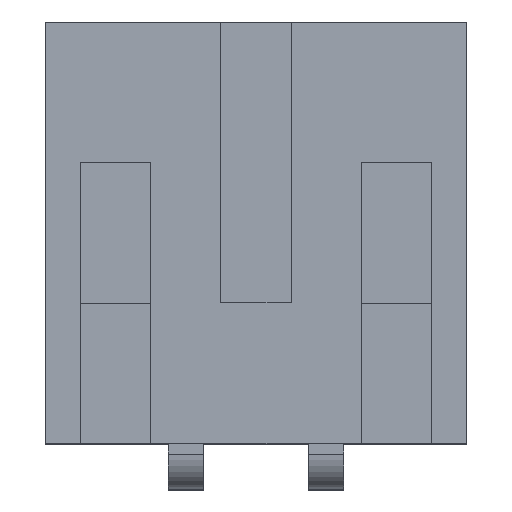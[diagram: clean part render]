
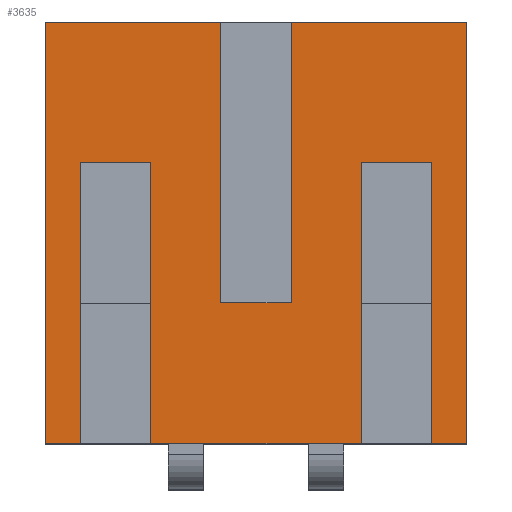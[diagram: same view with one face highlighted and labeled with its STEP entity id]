
A CAD part, top view. The second image highlights one B-rep face of the part: STEP entity #3635.
In plain terms, the highlighted planar face has unit normal (0, 0, 1).
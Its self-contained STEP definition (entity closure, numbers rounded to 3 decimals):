
#244 = LINE ( 'NONE', #5605, #6912 ) ;
#657 = DIRECTION ( 'NONE',  ( 1., 0., 0. ) ) ;
#843 = DIRECTION ( 'NONE',  ( 1., 0., 0. ) ) ;
#1010 = VERTEX_POINT ( 'NONE', #5062 ) ;
#1456 = CARTESIAN_POINT ( 'NONE',  ( 1.5, 0., 2.4 ) ) ;
#1509 = LINE ( 'NONE', #5811, #9569 ) ;
#1513 = CARTESIAN_POINT ( 'NONE',  ( 0.5, 0.882, 2.4 ) ) ;
#1758 = LINE ( 'NONE', #8501, #4857 ) ;
#1765 = CARTESIAN_POINT ( 'NONE',  ( -1.5, 4., 2.4 ) ) ;
#2033 = LINE ( 'NONE', #3082, #10865 ) ;
#2145 = VECTOR ( 'NONE', #13459, 1000. ) ;
#2176 = ORIENTED_EDGE ( 'NONE', *, *, #9074, .F. ) ;
#2286 = DIRECTION ( 'NONE',  ( 0., -1., 0. ) ) ;
#2777 = CARTESIAN_POINT ( 'NONE',  ( -3., 0., 2.4 ) ) ;
#2789 = EDGE_CURVE ( 'NONE', #7333, #7989, #8043, .T. ) ;
#2856 = CARTESIAN_POINT ( 'NONE',  ( -0.5, 2., 2.4 ) ) ;
#2992 = DIRECTION ( 'NONE',  ( 1., 0., 0. ) ) ;
#3075 = DIRECTION ( 'NONE',  ( 1., 0., 0. ) ) ;
#3082 = CARTESIAN_POINT ( 'NONE',  ( -0.5, 0.882, 2.4 ) ) ;
#3161 = ORIENTED_EDGE ( 'NONE', *, *, #4657, .T. ) ;
#3334 = CARTESIAN_POINT ( 'NONE',  ( 1.5, 4., 2.4 ) ) ;
#3489 = EDGE_CURVE ( 'NONE', #11536, #4437, #10509, .T. ) ;
#3528 = LINE ( 'NONE', #6058, #8404 ) ;
#3634 = VERTEX_POINT ( 'NONE', #7852 ) ;
#3635 = ADVANCED_FACE ( 'NONE', ( #3913 ), #13098, .F. ) ;
#3838 = ORIENTED_EDGE ( 'NONE', *, *, #12209, .F. ) ;
#3913 = FACE_OUTER_BOUND ( 'NONE', #15692, .T. ) ;
#3960 = VECTOR ( 'NONE', #6652, 1000. ) ;
#4152 = LINE ( 'NONE', #1513, #12795 ) ;
#4162 = EDGE_CURVE ( 'NONE', #1010, #14675, #14687, .T. ) ;
#4247 = VECTOR ( 'NONE', #15907, 1000. ) ;
#4250 = EDGE_CURVE ( 'NONE', #14648, #11364, #10944, .T. ) ;
#4262 = LINE ( 'NONE', #2856, #2145 ) ;
#4317 = CARTESIAN_POINT ( 'NONE',  ( 3., 6., 2.4 ) ) ;
#4437 = VERTEX_POINT ( 'NONE', #13275 ) ;
#4540 = CARTESIAN_POINT ( 'NONE',  ( -1.5, 0., 2.4 ) ) ;
#4657 = EDGE_CURVE ( 'NONE', #10153, #1010, #6432, .T. ) ;
#4684 = VECTOR ( 'NONE', #9133, 1000. ) ;
#4687 = CARTESIAN_POINT ( 'NONE',  ( -3., 0., 2.4 ) ) ;
#4731 = CARTESIAN_POINT ( 'NONE',  ( -0.5, 6., 2.4 ) ) ;
#4830 = ORIENTED_EDGE ( 'NONE', *, *, #4162, .T. ) ;
#4857 = VECTOR ( 'NONE', #3075, 1000. ) ;
#4977 = CARTESIAN_POINT ( 'NONE',  ( -2.5, 0., 2.4 ) ) ;
#5062 = CARTESIAN_POINT ( 'NONE',  ( 2.5, 0., 2.4 ) ) ;
#5110 = VERTEX_POINT ( 'NONE', #4540 ) ;
#5244 = EDGE_CURVE ( 'NONE', #7989, #10153, #16517, .T. ) ;
#5605 = CARTESIAN_POINT ( 'NONE',  ( 3., 6., 2.4 ) ) ;
#5660 = CARTESIAN_POINT ( 'NONE',  ( 2.5, 4., 2.4 ) ) ;
#5811 = CARTESIAN_POINT ( 'NONE',  ( -3., 6., 2.4 ) ) ;
#5818 = VECTOR ( 'NONE', #843, 1000. ) ;
#6058 = CARTESIAN_POINT ( 'NONE',  ( -1.5, 0., 2.4 ) ) ;
#6432 = LINE ( 'NONE', #11677, #16399 ) ;
#6652 = DIRECTION ( 'NONE',  ( 0., 1., 0. ) ) ;
#6863 = ORIENTED_EDGE ( 'NONE', *, *, #14977, .F. ) ;
#6912 = VECTOR ( 'NONE', #9662, 1000. ) ;
#7333 = VERTEX_POINT ( 'NONE', #11651 ) ;
#7611 = ORIENTED_EDGE ( 'NONE', *, *, #3489, .F. ) ;
#7852 = CARTESIAN_POINT ( 'NONE',  ( 0.5, 2., 2.4 ) ) ;
#7989 = VERTEX_POINT ( 'NONE', #3334 ) ;
#8006 = EDGE_CURVE ( 'NONE', #5110, #11536, #3528, .T. ) ;
#8043 = LINE ( 'NONE', #1456, #3960 ) ;
#8404 = VECTOR ( 'NONE', #15321, 1000. ) ;
#8416 = CARTESIAN_POINT ( 'NONE',  ( 2.5, 4., 2.4 ) ) ;
#8501 = CARTESIAN_POINT ( 'NONE',  ( -3., 6., 2.4 ) ) ;
#8547 = CARTESIAN_POINT ( 'NONE',  ( -0.5, 2., 2.4 ) ) ;
#8718 = VERTEX_POINT ( 'NONE', #8547 ) ;
#9074 = EDGE_CURVE ( 'NONE', #3634, #13758, #4152, .T. ) ;
#9133 = DIRECTION ( 'NONE',  ( 0., -1., 0. ) ) ;
#9210 = EDGE_CURVE ( 'NONE', #8718, #10137, #2033, .T. ) ;
#9445 = LINE ( 'NONE', #10491, #4684 ) ;
#9569 = VECTOR ( 'NONE', #2992, 1000. ) ;
#9662 = DIRECTION ( 'NONE',  ( 0., -1., 0. ) ) ;
#9707 = DIRECTION ( 'NONE',  ( 0., 0., -1. ) ) ;
#9932 = CARTESIAN_POINT ( 'NONE',  ( -3., 6., 2.4 ) ) ;
#10125 = ORIENTED_EDGE ( 'NONE', *, *, #16444, .F. ) ;
#10137 = VERTEX_POINT ( 'NONE', #4731 ) ;
#10153 = VERTEX_POINT ( 'NONE', #8416 ) ;
#10450 = ORIENTED_EDGE ( 'NONE', *, *, #5244, .T. ) ;
#10491 = CARTESIAN_POINT ( 'NONE',  ( -3., 6., 2.4 ) ) ;
#10509 = LINE ( 'NONE', #14747, #17022 ) ;
#10513 = CARTESIAN_POINT ( 'NONE',  ( 0.5, 6., 2.4 ) ) ;
#10721 = ORIENTED_EDGE ( 'NONE', *, *, #4250, .T. ) ;
#10773 = ORIENTED_EDGE ( 'NONE', *, *, #2789, .T. ) ;
#10865 = VECTOR ( 'NONE', #14979, 1000. ) ;
#10901 = VECTOR ( 'NONE', #657, 1000. ) ;
#10944 = LINE ( 'NONE', #4687, #10901 ) ;
#11364 = VERTEX_POINT ( 'NONE', #4977 ) ;
#11382 = VECTOR ( 'NONE', #13361, 1000. ) ;
#11396 = EDGE_CURVE ( 'NONE', #5110, #7333, #12857, .T. ) ;
#11536 = VERTEX_POINT ( 'NONE', #1765 ) ;
#11651 = CARTESIAN_POINT ( 'NONE',  ( 1.5, 0., 2.4 ) ) ;
#11677 = CARTESIAN_POINT ( 'NONE',  ( 2.5, 0., 2.4 ) ) ;
#11905 = ORIENTED_EDGE ( 'NONE', *, *, #11396, .T. ) ;
#11991 = VERTEX_POINT ( 'NONE', #9932 ) ;
#12151 = CARTESIAN_POINT ( 'NONE',  ( -3., 0., 2.4 ) ) ;
#12205 = CARTESIAN_POINT ( 'NONE',  ( -3., 6., 2.4 ) ) ;
#12209 = EDGE_CURVE ( 'NONE', #16672, #14675, #244, .T. ) ;
#12453 = EDGE_CURVE ( 'NONE', #3634, #8718, #4262, .T. ) ;
#12535 = ORIENTED_EDGE ( 'NONE', *, *, #12453, .T. ) ;
#12795 = VECTOR ( 'NONE', #14738, 1000. ) ;
#12857 = LINE ( 'NONE', #16667, #5818 ) ;
#13098 = PLANE ( 'NONE',  #14790 ) ;
#13225 = LINE ( 'NONE', #17216, #15397 ) ;
#13275 = CARTESIAN_POINT ( 'NONE',  ( -2.5, 4., 2.4 ) ) ;
#13358 = DIRECTION ( 'NONE',  ( -1., 0., 0. ) ) ;
#13361 = DIRECTION ( 'NONE',  ( 1., 0., 0. ) ) ;
#13459 = DIRECTION ( 'NONE',  ( -1., 0., 0. ) ) ;
#13550 = CARTESIAN_POINT ( 'NONE',  ( 3., 0., 2.4 ) ) ;
#13758 = VERTEX_POINT ( 'NONE', #10513 ) ;
#13858 = ORIENTED_EDGE ( 'NONE', *, *, #8006, .F. ) ;
#13985 = EDGE_CURVE ( 'NONE', #11991, #14648, #9445, .T. ) ;
#14648 = VERTEX_POINT ( 'NONE', #12151 ) ;
#14675 = VERTEX_POINT ( 'NONE', #13550 ) ;
#14687 = LINE ( 'NONE', #2777, #4247 ) ;
#14738 = DIRECTION ( 'NONE',  ( 0., 1., 0. ) ) ;
#14747 = CARTESIAN_POINT ( 'NONE',  ( -2.5, 4., 2.4 ) ) ;
#14790 = AXIS2_PLACEMENT_3D ( 'NONE', #12205, #9707, #16226 ) ;
#14818 = ORIENTED_EDGE ( 'NONE', *, *, #9210, .T. ) ;
#14869 = ORIENTED_EDGE ( 'NONE', *, *, #13985, .T. ) ;
#14977 = EDGE_CURVE ( 'NONE', #13758, #16672, #1758, .T. ) ;
#14979 = DIRECTION ( 'NONE',  ( 0., 1., 0. ) ) ;
#15321 = DIRECTION ( 'NONE',  ( 0., 1., 0. ) ) ;
#15343 = DIRECTION ( 'NONE',  ( 0., -1., 0. ) ) ;
#15397 = VECTOR ( 'NONE', #2286, 1000. ) ;
#15692 = EDGE_LOOP ( 'NONE', ( #3161, #4830, #3838, #6863, #2176, #12535, #14818, #16759, #14869, #10721, #10125, #7611, #13858, #11905, #10773, #10450 ) ) ;
#15818 = EDGE_CURVE ( 'NONE', #11991, #10137, #1509, .T. ) ;
#15907 = DIRECTION ( 'NONE',  ( 1., 0., 0. ) ) ;
#16226 = DIRECTION ( 'NONE',  ( 0., 1., 0. ) ) ;
#16399 = VECTOR ( 'NONE', #15343, 1000. ) ;
#16444 = EDGE_CURVE ( 'NONE', #4437, #11364, #13225, .T. ) ;
#16517 = LINE ( 'NONE', #5660, #11382 ) ;
#16667 = CARTESIAN_POINT ( 'NONE',  ( -3., 0., 2.4 ) ) ;
#16672 = VERTEX_POINT ( 'NONE', #4317 ) ;
#16759 = ORIENTED_EDGE ( 'NONE', *, *, #15818, .F. ) ;
#17022 = VECTOR ( 'NONE', #13358, 1000. ) ;
#17216 = CARTESIAN_POINT ( 'NONE',  ( -2.5, 0., 2.4 ) ) ;
